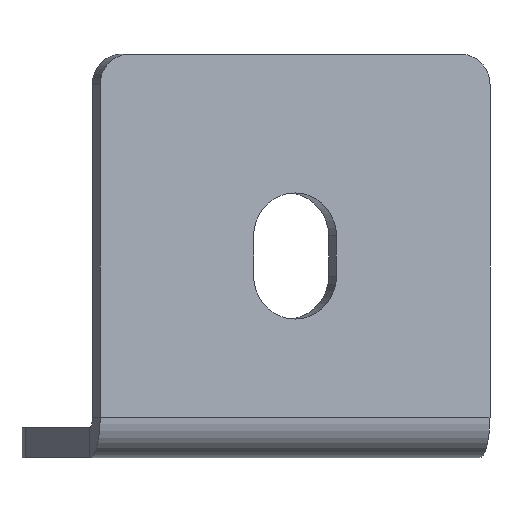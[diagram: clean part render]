
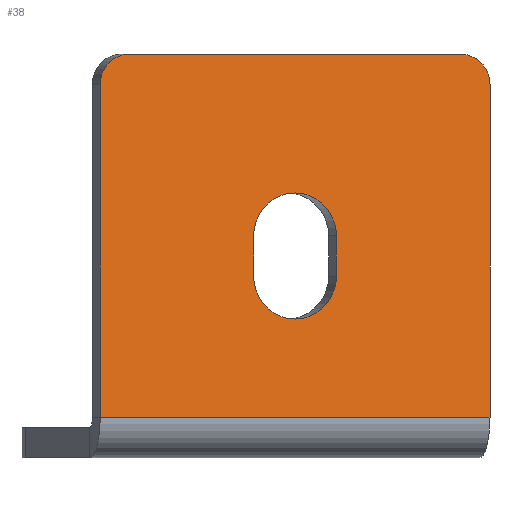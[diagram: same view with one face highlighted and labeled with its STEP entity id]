
A CAD part, left-side view. The second image highlights one B-rep face of the part: STEP entity #38.
In plain terms, the highlighted planar face has unit normal (-0.966, -0.259, 0).
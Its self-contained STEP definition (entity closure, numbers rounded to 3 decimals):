
#4 = CARTESIAN_POINT ( 'NONE',  ( -10.353, 38.637, 4. ) ) ;
#5 = DIRECTION ( 'NONE',  ( 0.259, -0.966, 0. ) ) ;
#38 = ADVANCED_FACE ( 'NONE', ( #396, #607 ), #1084, .T. ) ;
#49 = VERTEX_POINT ( 'NONE', #620 ) ;
#54 = CARTESIAN_POINT ( 'NONE',  ( -10.353, 38.637, 4. ) ) ;
#79 = EDGE_CURVE ( 'NONE', #49, #348, #115, .T. ) ;
#90 = VECTOR ( 'NONE', #1000, 1000. ) ;
#98 = CARTESIAN_POINT ( 'NONE',  ( -5.176, 19.319, 22. ) ) ;
#100 = EDGE_CURVE ( 'NONE', #627, #699, #794, .T. ) ;
#104 = CARTESIAN_POINT ( 'NONE',  ( 0., 0., 4. ) ) ;
#115 = CIRCLE ( 'NONE', #582, 3. ) ;
#119 = AXIS2_PLACEMENT_3D ( 'NONE', #98, #714, #182 ) ;
#142 = DIRECTION ( 'NONE',  ( -0.259, 0.966, 0. ) ) ;
#145 = CARTESIAN_POINT ( 'NONE',  ( -4.076, 15.213, 22. ) ) ;
#182 = DIRECTION ( 'NONE',  ( 0.259, -0.966, 0. ) ) ;
#188 = CIRCLE ( 'NONE', #851, 3. ) ;
#190 = EDGE_CURVE ( 'NONE', #395, #494, #264, .T. ) ;
#213 = CARTESIAN_POINT ( 'NONE',  ( -4.076, 15.213, 18. ) ) ;
#230 = VECTOR ( 'NONE', #914, 1000. ) ;
#256 = CARTESIAN_POINT ( 'NONE',  ( -0.776, 2.898, 37. ) ) ;
#264 = LINE ( 'NONE', #458, #230 ) ;
#273 = EDGE_CURVE ( 'NONE', #49, #754, #441, .T. ) ;
#279 = CARTESIAN_POINT ( 'NONE',  ( -9.576, 35.739, 37. ) ) ;
#306 = CARTESIAN_POINT ( 'NONE',  ( 0., 0., 37. ) ) ;
#312 = LINE ( 'NONE', #725, #515 ) ;
#316 = EDGE_CURVE ( 'NONE', #1022, #805, #1090, .T. ) ;
#342 = ORIENTED_EDGE ( 'NONE', *, *, #273, .T. ) ;
#346 = DIRECTION ( 'NONE',  ( 0.259, -0.966, 0. ) ) ;
#348 = VERTEX_POINT ( 'NONE', #426 ) ;
#356 = ORIENTED_EDGE ( 'NONE', *, *, #386, .F. ) ;
#357 = EDGE_LOOP ( 'NONE', ( #630, #356, #721, #995 ) ) ;
#361 = DIRECTION ( 'NONE',  ( 0.259, -0.966, 0. ) ) ;
#386 = EDGE_CURVE ( 'NONE', #699, #395, #786, .T. ) ;
#395 = VERTEX_POINT ( 'NONE', #213 ) ;
#396 = FACE_BOUND ( 'NONE', #357, .T. ) ;
#426 = CARTESIAN_POINT ( 'NONE',  ( -9.576, 35.739, 40. ) ) ;
#427 = LINE ( 'NONE', #54, #800 ) ;
#441 = LINE ( 'NONE', #780, #900 ) ;
#458 = CARTESIAN_POINT ( 'NONE',  ( -4.076, 15.213, 40. ) ) ;
#465 = VERTEX_POINT ( 'NONE', #1033 ) ;
#474 = DIRECTION ( 'NONE',  ( -0.966, -0.259, 0. ) ) ;
#494 = VERTEX_POINT ( 'NONE', #145 ) ;
#515 = VECTOR ( 'NONE', #910, 1000. ) ;
#519 = AXIS2_PLACEMENT_3D ( 'NONE', #991, #531, #5 ) ;
#521 = ORIENTED_EDGE ( 'NONE', *, *, #316, .F. ) ;
#531 = DIRECTION ( 'NONE',  ( -0.966, -0.259, 0. ) ) ;
#582 = AXIS2_PLACEMENT_3D ( 'NONE', #279, #904, #361 ) ;
#601 = CARTESIAN_POINT ( 'NONE',  ( 0., 0., 40. ) ) ;
#607 = FACE_OUTER_BOUND ( 'NONE', #1115, .T. ) ;
#620 = CARTESIAN_POINT ( 'NONE',  ( -10.353, 38.637, 37. ) ) ;
#627 = VERTEX_POINT ( 'NONE', #864 ) ;
#630 = ORIENTED_EDGE ( 'NONE', *, *, #190, .F. ) ;
#689 = DIRECTION ( 'NONE',  ( 0., 0., -1. ) ) ;
#698 = EDGE_CURVE ( 'NONE', #465, #1022, #188, .T. ) ;
#699 = VERTEX_POINT ( 'NONE', #878 ) ;
#714 = DIRECTION ( 'NONE',  ( -0.966, -0.259, 0. ) ) ;
#721 = ORIENTED_EDGE ( 'NONE', *, *, #100, .F. ) ;
#725 = CARTESIAN_POINT ( 'NONE',  ( -10.353, 38.637, 40. ) ) ;
#752 = EDGE_CURVE ( 'NONE', #494, #627, #816, .T. ) ;
#754 = VERTEX_POINT ( 'NONE', #4 ) ;
#780 = CARTESIAN_POINT ( 'NONE',  ( -10.353, 38.637, 40. ) ) ;
#786 = CIRCLE ( 'NONE', #870, 4.25 ) ;
#794 = LINE ( 'NONE', #1088, #90 ) ;
#800 = VECTOR ( 'NONE', #142, 1000. ) ;
#805 = VERTEX_POINT ( 'NONE', #104 ) ;
#816 = CIRCLE ( 'NONE', #119, 4.25 ) ;
#842 = VECTOR ( 'NONE', #978, 1000. ) ;
#849 = EDGE_CURVE ( 'NONE', #465, #348, #312, .T. ) ;
#851 = AXIS2_PLACEMENT_3D ( 'NONE', #256, #882, #346 ) ;
#864 = CARTESIAN_POINT ( 'NONE',  ( -6.276, 23.424, 22. ) ) ;
#870 = AXIS2_PLACEMENT_3D ( 'NONE', #1029, #474, #1111 ) ;
#878 = CARTESIAN_POINT ( 'NONE',  ( -6.276, 23.424, 18. ) ) ;
#882 = DIRECTION ( 'NONE',  ( 0.966, 0.259, 0. ) ) ;
#893 = ORIENTED_EDGE ( 'NONE', *, *, #849, .T. ) ;
#900 = VECTOR ( 'NONE', #689, 1000. ) ;
#904 = DIRECTION ( 'NONE',  ( 0.966, 0.259, 0. ) ) ;
#910 = DIRECTION ( 'NONE',  ( -0.259, 0.966, 0. ) ) ;
#914 = DIRECTION ( 'NONE',  ( 0., 0., 1. ) ) ;
#978 = DIRECTION ( 'NONE',  ( 0., 0., -1. ) ) ;
#991 = CARTESIAN_POINT ( 'NONE',  ( -10.353, 38.637, 40. ) ) ;
#995 = ORIENTED_EDGE ( 'NONE', *, *, #752, .F. ) ;
#1000 = DIRECTION ( 'NONE',  ( 0., 0., -1. ) ) ;
#1022 = VERTEX_POINT ( 'NONE', #306 ) ;
#1029 = CARTESIAN_POINT ( 'NONE',  ( -5.176, 19.319, 18. ) ) ;
#1033 = CARTESIAN_POINT ( 'NONE',  ( -0.776, 2.898, 40. ) ) ;
#1048 = EDGE_CURVE ( 'NONE', #805, #754, #427, .T. ) ;
#1084 = PLANE ( 'NONE',  #519 ) ;
#1088 = CARTESIAN_POINT ( 'NONE',  ( -6.276, 23.424, 40. ) ) ;
#1090 = LINE ( 'NONE', #601, #842 ) ;
#1111 = DIRECTION ( 'NONE',  ( 0.259, -0.966, 0. ) ) ;
#1115 = EDGE_LOOP ( 'NONE', ( #521, #1163, #893, #1123, #342, #1118 ) ) ;
#1118 = ORIENTED_EDGE ( 'NONE', *, *, #1048, .F. ) ;
#1123 = ORIENTED_EDGE ( 'NONE', *, *, #79, .F. ) ;
#1163 = ORIENTED_EDGE ( 'NONE', *, *, #698, .F. ) ;
